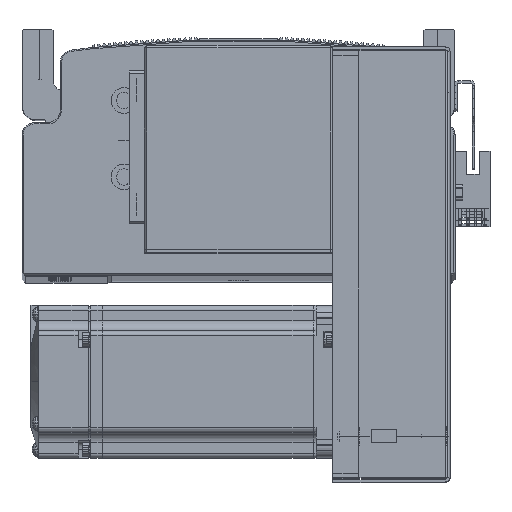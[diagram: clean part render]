
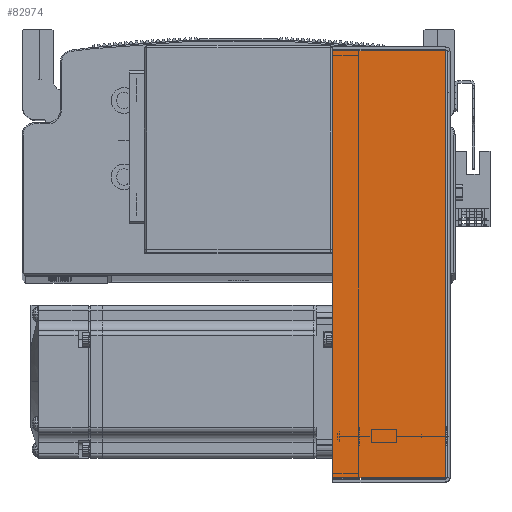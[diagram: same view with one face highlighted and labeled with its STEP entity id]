
A CAD part, top view. The second image highlights one B-rep face of the part: STEP entity #82974.
In plain terms, the highlighted planar face has unit normal (0, 0, 1) as drawn and (0, 0, -1) by its records, which use the part's own axes.
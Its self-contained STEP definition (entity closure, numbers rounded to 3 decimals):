
#6 = LINE ( 'NONE', #44840, #10 ) ;
#10 = VECTOR ( 'NONE', #44854, 1000. ) ;
#3454 = FACE_OUTER_BOUND ( 'NONE', #23216, .T. ) ;
#15840 = VECTOR ( 'NONE', #48230, 1000. ) ;
#15841 = LINE ( 'NONE', #48364, #15843 ) ;
#15843 = VECTOR ( 'NONE', #48340, 1000. ) ;
#15853 = VECTOR ( 'NONE', #48239, 1000. ) ;
#15895 = LINE ( 'NONE', #48257, #15853 ) ;
#15897 = LINE ( 'NONE', #48209, #15840 ) ;
#18946 = AXIS2_PLACEMENT_3D ( 'NONE', #21387, #21391, #21392 ) ;
#21381 = PLANE ( 'NONE',  #18946 ) ;
#21387 = CARTESIAN_POINT ( 'NONE',  ( 0., 0., -40.5 ) ) ;
#21391 = DIRECTION ( 'NONE',  ( 0., 0., 1. ) ) ;
#21392 = DIRECTION ( 'NONE',  ( 0., -1., 0. ) ) ;
#23216 = EDGE_LOOP ( 'NONE', ( #66507, #66556, #66474, #66704 ) ) ;
#36274 = VERTEX_POINT ( 'NONE', #68064 ) ;
#36325 = VERTEX_POINT ( 'NONE', #68169 ) ;
#36355 = VERTEX_POINT ( 'NONE', #66971 ) ;
#36422 = VERTEX_POINT ( 'NONE', #64950 ) ;
#44840 = CARTESIAN_POINT ( 'NONE',  ( 83.793, 0., -40.5 ) ) ;
#44854 = DIRECTION ( 'NONE',  ( 0., 1., 0. ) ) ;
#48209 = CARTESIAN_POINT ( 'NONE',  ( -83.793, 0., -40.5 ) ) ;
#48230 = DIRECTION ( 'NONE',  ( 0., 1., 0. ) ) ;
#48239 = DIRECTION ( 'NONE',  ( 1., 0., 0. ) ) ;
#48257 = CARTESIAN_POINT ( 'NONE',  ( 84.5, 45., -40.5 ) ) ;
#48340 = DIRECTION ( 'NONE',  ( 1., 0., 0. ) ) ;
#48364 = CARTESIAN_POINT ( 'NONE',  ( 0., 0.737, -40.5 ) ) ;
#50552 = EDGE_CURVE ( 'NONE', #36274, #36355, #15897, .T. ) ;
#50556 = EDGE_CURVE ( 'NONE', #36355, #36422, #15895, .T. ) ;
#50563 = EDGE_CURVE ( 'NONE', #36274, #36325, #15841, .T. ) ;
#50615 = EDGE_CURVE ( 'NONE', #36325, #36422, #6, .T. ) ;
#64950 = CARTESIAN_POINT ( 'NONE',  ( 83.793, 45., -40.5 ) ) ;
#66474 = ORIENTED_EDGE ( 'NONE', *, *, #50556, .T. ) ;
#66507 = ORIENTED_EDGE ( 'NONE', *, *, #50563, .F. ) ;
#66556 = ORIENTED_EDGE ( 'NONE', *, *, #50552, .T. ) ;
#66704 = ORIENTED_EDGE ( 'NONE', *, *, #50615, .F. ) ;
#66971 = CARTESIAN_POINT ( 'NONE',  ( -83.793, 45., -40.5 ) ) ;
#68064 = CARTESIAN_POINT ( 'NONE',  ( -83.793, 0.737, -40.5 ) ) ;
#68169 = CARTESIAN_POINT ( 'NONE',  ( 83.793, 0.737, -40.5 ) ) ;
#82974 = ADVANCED_FACE ( 'NONE', ( #3454 ), #21381, .F. ) ;
